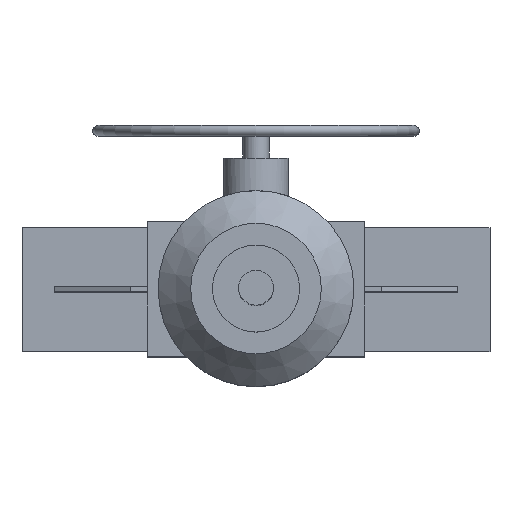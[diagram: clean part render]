
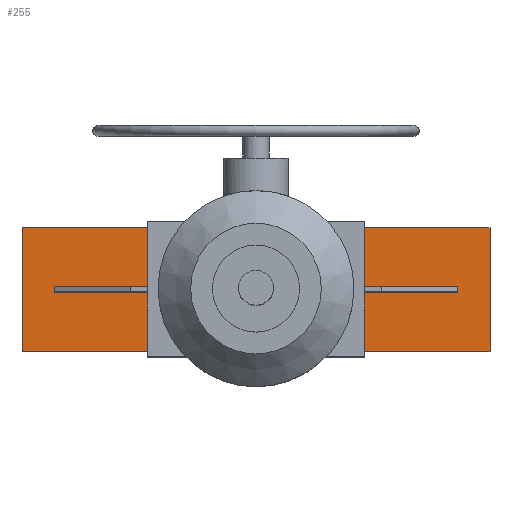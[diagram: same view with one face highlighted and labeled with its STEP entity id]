
A CAD part, top view. The second image highlights one B-rep face of the part: STEP entity #255.
In plain terms, the highlighted planar face has unit normal (0, 0, 1).
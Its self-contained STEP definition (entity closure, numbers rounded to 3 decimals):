
#255=ADVANCED_FACE('',(#1784,#1786),#1788,.T.);
#1784=FACE_BOUND('',#1785,.T.);
#1785=EDGE_LOOP('',(#3061,#3062,#3063,#3064,#3065,#3066,#3067,#3068));
#1786=FACE_BOUND('',#1787,.T.);
#1787=EDGE_LOOP('',(#3069,#3070,#3071,#3072));
#1788=PLANE('',#1789);
#1789=AXIS2_PLACEMENT_3D('',#1790,#1791,#1792);
#1790=CARTESIAN_POINT('',(0.,0.,325.));
#1791=DIRECTION('',(0.,0.,1.));
#1792=DIRECTION('',(1.,0.,0.));
#3061=ORIENTED_EDGE('',*,*,#3781,.F.);
#3062=ORIENTED_EDGE('',*,*,#3786,.T.);
#3063=ORIENTED_EDGE('',*,*,#3790,.T.);
#3064=ORIENTED_EDGE('',*,*,#3769,.T.);
#3065=ORIENTED_EDGE('',*,*,#3775,.F.);
#3066=ORIENTED_EDGE('',*,*,#3773,.T.);
#3067=ORIENTED_EDGE('',*,*,#3791,.T.);
#3068=ORIENTED_EDGE('',*,*,#3782,.T.);
#3069=ORIENTED_EDGE('',*,*,#3792,.F.);
#3070=ORIENTED_EDGE('',*,*,#3793,.F.);
#3071=ORIENTED_EDGE('',*,*,#3794,.F.);
#3072=ORIENTED_EDGE('',*,*,#3795,.F.);
#3769=EDGE_CURVE('',#4186,#4170,#4187,.T.);
#3773=EDGE_CURVE('',#4155,#4192,#4194,.T.);
#3775=EDGE_CURVE('',#4155,#4170,#4196,.T.);
#3781=EDGE_CURVE('',#4174,#4161,#4206,.T.);
#3782=EDGE_CURVE('',#4207,#4161,#4208,.T.);
#3786=EDGE_CURVE('',#4174,#4213,#4215,.T.);
#3790=EDGE_CURVE('',#4213,#4186,#4222,.T.);
#3791=EDGE_CURVE('',#4192,#4207,#4223,.T.);
#3792=EDGE_CURVE('',#4224,#4225,#4226,.T.);
#3793=EDGE_CURVE('',#4227,#4224,#4228,.F.);
#3794=EDGE_CURVE('',#4229,#4227,#4230,.T.);
#3795=EDGE_CURVE('',#4225,#4229,#4231,.T.);
#4155=VERTEX_POINT('',#4869);
#4161=VERTEX_POINT('',#4881);
#4170=VERTEX_POINT('',#4902);
#4174=VERTEX_POINT('',#4910);
#4186=VERTEX_POINT('',#4938);
#4187=LINE('',#4939,#4940);
#4192=VERTEX_POINT('',#4950);
#4194=LINE('',#4954,#4955);
#4196=LINE('',#4960,#4961);
#4206=LINE('',#4982,#4983);
#4207=VERTEX_POINT('',#4985);
#4208=LINE('',#4986,#4987);
#4213=VERTEX_POINT('',#4997);
#4215=LINE('',#5001,#5002);
#4222=LINE('',#5080,#5081);
#4223=LINE('',#5083,#5084);
#4224=VERTEX_POINT('',#5086);
#4225=VERTEX_POINT('',#5087);
#4226=LINE('',#5088,#5089);
#4227=VERTEX_POINT('',#5091);
#4228=LINE('',#5092,#5093);
#4229=VERTEX_POINT('',#5095);
#4230=LINE('',#5096,#5097);
#4231=LINE('',#5099,#5100);
#4869=CARTESIAN_POINT('',(-100.,57.,325.));
#4881=CARTESIAN_POINT('',(-100.,-57.,325.));
#4902=CARTESIAN_POINT('',(100.,57.,325.));
#4910=CARTESIAN_POINT('',(100.,-57.,325.));
#4938=CARTESIAN_POINT('',(215.,57.,325.));
#4939=CARTESIAN_POINT('',(215.,57.,325.));
#4940=VECTOR('',#4941,1.);
#4941=DIRECTION('',(-1.,0.,0.));
#4950=CARTESIAN_POINT('',(-215.,57.,325.));
#4954=CARTESIAN_POINT('',(-100.,57.,325.));
#4955=VECTOR('',#4956,1.);
#4956=DIRECTION('',(-1.,0.,0.));
#4960=CARTESIAN_POINT('',(-100.,57.,325.));
#4961=VECTOR('',#4962,1.);
#4962=DIRECTION('',(1.,0.,0.));
#4982=CARTESIAN_POINT('',(100.,-57.,325.));
#4983=VECTOR('',#4984,1.);
#4984=DIRECTION('',(-1.,0.,0.));
#4985=CARTESIAN_POINT('',(-215.,-57.,325.));
#4986=CARTESIAN_POINT('',(-215.,-57.,325.));
#4987=VECTOR('',#4988,1.);
#4988=DIRECTION('',(1.,0.,0.));
#4997=CARTESIAN_POINT('',(215.,-57.,325.));
#5001=CARTESIAN_POINT('',(100.,-57.,325.));
#5002=VECTOR('',#5003,1.);
#5003=DIRECTION('',(1.,0.,0.));
#5080=CARTESIAN_POINT('',(215.,-57.,325.));
#5081=VECTOR('',#5082,1.);
#5082=DIRECTION('',(0.,1.,0.));
#5083=CARTESIAN_POINT('',(-215.,57.,325.));
#5084=VECTOR('',#5085,1.);
#5085=DIRECTION('',(0.,-1.,0.));
#5086=CARTESIAN_POINT('',(-185.,2.5,325.));
#5087=CARTESIAN_POINT('',(-185.,-2.5,325.));
#5088=CARTESIAN_POINT('',(-185.,2.5,325.));
#5089=VECTOR('',#5090,1.);
#5090=DIRECTION('',(0.,-1.,0.));
#5091=CARTESIAN_POINT('',(185.,2.5,325.));
#5092=CARTESIAN_POINT('',(-185.,2.5,325.));
#5093=VECTOR('',#5094,1.);
#5094=DIRECTION('',(1.,0.,0.));
#5095=CARTESIAN_POINT('',(185.,-2.5,325.));
#5096=CARTESIAN_POINT('',(185.,-2.5,325.));
#5097=VECTOR('',#5098,1.);
#5098=DIRECTION('',(0.,1.,0.));
#5099=CARTESIAN_POINT('',(-185.,-2.5,325.));
#5100=VECTOR('',#5101,1.);
#5101=DIRECTION('',(1.,0.,0.));
